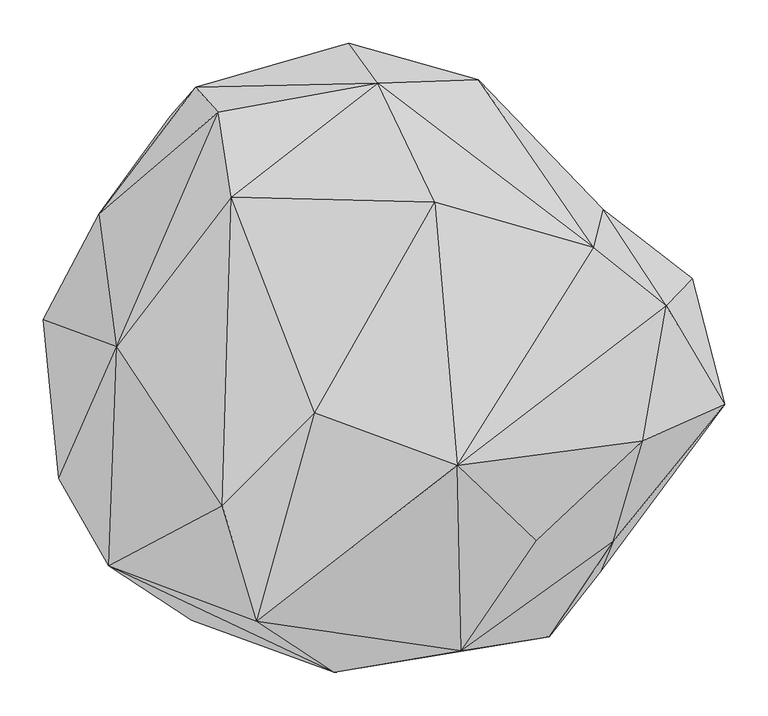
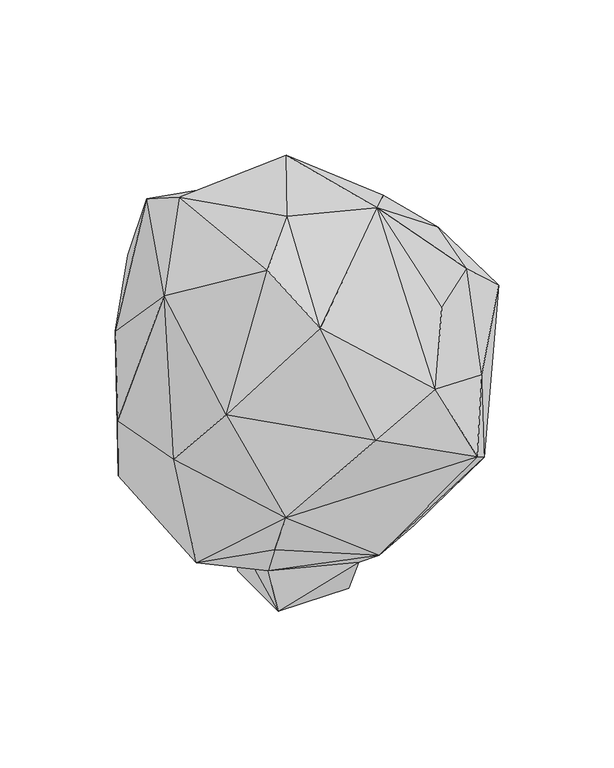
"""IFC4 building model written with IfcOpenShell, lengths in millimetres: geographic element geometry, Enscape AssetDefinition - Bush 135 Rose of Sharon : Enscape AssetDefinition - Bush 135 Rose of Sharon 3."""

import ifcopenshell
import ifcopenshell.guid

model = None  # the IFC model being written
_history = None  # IfcOwnerHistory: only IFC2X3 demands one
_inside = {}  # id of a spatial element -> (the spatial element, [elements in it])
_under = {}  # id of a project, library or spatial element -> (it, [spatial elements below it])
_declared = {}  # id of a project -> (the project, [libraries it declares])
_typed = {}  # id of a type object -> (the type object, [elements of that type])
_made_of = {}  # id of a material, layer set ... -> (it, [elements and type objects made of it])


def new_model(schema):
    """Start an empty IFC model of exactly this schema.

    Asked for "IFC4X3", IfcOpenShell would pick the latest addendum, in which some entities
    have other attributes; the version numbers below select the first issue.
    IFC2X3 requires an IfcOwnerHistory on every rooted entity: one is made here for all.
    """
    global model, _history
    if schema == "IFC4X3":
        model = ifcopenshell.file(schema_version=(4, 3, 0, 0))
    else:
        model = ifcopenshell.file(schema=schema)
    _inside.clear()
    _under.clear()
    _declared.clear()
    _typed.clear()
    _made_of.clear()
    _history = None
    if model.schema == "IFC2X3":
        org = make("IfcOrganization", Name="unknown")
        user = make(
            "IfcPersonAndOrganization",
            ThePerson=make("IfcPerson", FamilyName="unknown"),
            TheOrganization=org,
        )
        app = make(
            "IfcApplication",
            ApplicationDeveloper=org,
            Version="unknown",
            ApplicationFullName="unknown",
            ApplicationIdentifier="unknown",
        )
        _history = make(
            "IfcOwnerHistory",
            OwningUser=user,
            OwningApplication=app,
            ChangeAction="ADDED",
            CreationDate=0,
        )
    return model


def make(cls, **values):
    """One entity of the class cls with the attributes given. An attribute that is None is left unset."""
    return model.create_entity(
        cls, **{name: value for name, value in values.items() if value is not None}
    )


def rooted(cls, **values):
    """An entity with a GlobalId (a new one), such as an element, a storey or a relation."""
    return make(cls, GlobalId=ifcopenshell.guid.new(), OwnerHistory=_history, **values)


def si_unit(unit_type, name, prefix=None):
    """IfcSIUnit, for example si_unit("LENGTHUNIT", "METRE", prefix="MILLI")."""
    return make("IfcSIUnit", UnitType=unit_type, Prefix=prefix, Name=name)


def assignment(units):
    """IfcUnitAssignment: the units of a project."""
    return None if units is None else make("IfcUnitAssignment", Units=units)


def point(xyz):
    """IfcCartesianPoint."""
    return None if xyz is None else make("IfcCartesianPoint", Coordinates=xyz)


def direction(xyz):
    """IfcDirection."""
    return None if xyz is None else make("IfcDirection", DirectionRatios=xyz)


def frame(location, z_axis=None, x_axis=None):
    """IfcAxis2Placement3D, a coordinate frame: its origin and axes. An axis left out is left unset."""
    return make(
        "IfcAxis2Placement3D",
        Location=point(location),
        Axis=direction(z_axis),
        RefDirection=direction(x_axis),
    )


def origin():
    """The frame at (0, 0, 0) with its axes left unset."""
    return frame((0.0, 0.0, 0.0))


def place(relative_to, where):
    """IfcLocalPlacement: puts the frame where relative to a parent placement (None: the world)."""
    return make(
        "IfcLocalPlacement", PlacementRelTo=relative_to, RelativePlacement=where
    )


def context(
    kind, dimensions, precision=None, world=None, true_north=None, identifier=None
):
    """IfcGeometricRepresentationContext, for example the 3D "Model" context."""
    return make(
        "IfcGeometricRepresentationContext",
        ContextIdentifier=identifier,
        ContextType=kind,
        CoordinateSpaceDimension=dimensions,
        Precision=precision,
        WorldCoordinateSystem=world,
        TrueNorth=true_north,
    )


def project(units=None, contexts=None):
    """IfcProject with its units and contexts."""
    return rooted(
        "IfcProject",
        Name="project",
        RepresentationContexts=contexts,
        UnitsInContext=assignment(units),
    )


def spatial(cls, under=None, at=None, **own):
    """A site, building, storey or space (cls), placed at a placement, below another one or the project."""
    s = rooted(cls, ObjectPlacement=at, **own)
    if under is not None:
        _under.setdefault(under.id(), (under, []))[1].append(s)
    return s


def point_list(points):
    """IfcCartesianPointList2D or 3D."""
    cls = (
        "IfcCartesianPointList2D" if len(points[0]) == 2 else "IfcCartesianPointList3D"
    )
    return make(cls, CoordList=points)


def triangles(points, corners, closed=None, point_numbers=None):
    """IfcTriangulatedFaceSet: each triangle names its three corners, points numbered from 1."""
    return make(
        "IfcTriangulatedFaceSet",
        Coordinates=point_list(points),
        Closed=closed,
        CoordIndex=corners,
        PnIndex=point_numbers,
    )


def shape(context_of_items, identifier, shape_type, items):
    """IfcShapeRepresentation: the items that make up one representation, for example the "Body"."""
    return make(
        "IfcShapeRepresentation",
        ContextOfItems=context_of_items,
        RepresentationIdentifier=identifier,
        RepresentationType=shape_type,
        Items=items,
    )


def source(mapping_origin, context_of_items, identifier, shape_type, items):
    """IfcRepresentationMap: a shape defined once, which mapped items show again and again."""
    return make(
        "IfcRepresentationMap",
        MappingOrigin=mapping_origin,
        MappedRepresentation=shape(context_of_items, identifier, shape_type, items),
    )


def transform(
    local_origin,
    x_axis=None,
    y_axis=None,
    z_axis=None,
    scale=None,
    scale2=None,
    scale3=None,
    uniform=True,
):
    """IfcCartesianTransformationOperator3D, or its non-uniform kind. x_axis, y_axis, z_axis: its Axis1, 2, 3."""
    if uniform:
        return make(
            "IfcCartesianTransformationOperator3D",
            Axis1=direction(x_axis),
            Axis2=direction(y_axis),
            LocalOrigin=point(local_origin),
            Scale=scale,
            Axis3=direction(z_axis),
        )
    return make(
        "IfcCartesianTransformationOperator3DnonUniform",
        Axis1=direction(x_axis),
        Axis2=direction(y_axis),
        LocalOrigin=point(local_origin),
        Scale=scale,
        Axis3=direction(z_axis),
        Scale2=scale2,
        Scale3=scale3,
    )


def mapped(mapping_source, mapping_target):
    """IfcMappedItem: shows the shape of a source again, moved by a transform."""
    return make(
        "IfcMappedItem", MappingSource=mapping_source, MappingTarget=mapping_target
    )


def made_of(thing, what):
    """Note that an element or type object is made of a material, layer set ...; save() writes the relation."""
    if what is not None:
        _made_of.setdefault(what.id(), (what, []))[1].append(thing)
    return thing


def element(
    cls,
    number,
    at=None,
    inside=None,
    cuts=None,
    type_object=None,
    material=None,
    context=None,
    identifier="Body",
    shape_type=None,
    held_by="IfcProductDefinitionShape",
    body=None,
    shapes=None,
    **own,
):
    """One element of the class cls, such as IfcWall. Its Tag is "e" and its number.

    at: its placement. inside: the storey or other place that contains it. cuts: it is an
    opening in that element (IfcRelVoidsElement). A single representation is given by context,
    identifier, shape_type and body (its items); several are given by shapes. held_by: the class
    of the entity that holds the representations. save() writes the other relations.
    """
    e = rooted(cls, Tag="e%d" % number, ObjectPlacement=at, **own)
    if body is not None:
        shapes = [shape(context, identifier, shape_type, body)]
    if shapes is not None:
        e.Representation = make(held_by, Representations=shapes)
    if inside is not None:
        _inside.setdefault(inside.id(), (inside, []))[1].append(e)
    if cuts is not None:
        rooted(
            "IfcRelVoidsElement", RelatingBuildingElement=cuts, RelatedOpeningElement=e
        )
    if type_object is not None:
        _typed.setdefault(type_object.id(), (type_object, []))[1].append(e)
    return made_of(e, material)


def aggregate(whole, parts):
    """IfcRelAggregates: a whole, such as a stair, and the parts it consists of."""
    return rooted("IfcRelAggregates", RelatingObject=whole, RelatedObjects=parts)


def save(model, path):
    """Write the relations noted so far, then the file.

    IfcRelAggregates (storeys below a building ...), IfcRelContainedInSpatialStructure (elements
    in a storey), IfcRelDefinesByType, IfcRelAssociatesMaterial and IfcRelDeclares: one each for
    every whole, place, type object, material and project.
    """
    for whole, parts in _under.values():
        aggregate(whole, parts)
    for where, things in _inside.values():
        rooted(
            "IfcRelContainedInSpatialStructure",
            RelatedElements=things,
            RelatingStructure=where,
        )
    for kind, things in _typed.values():
        rooted("IfcRelDefinesByType", RelatedObjects=things, RelatingType=kind)
    for what, things in _made_of.values():
        rooted("IfcRelAssociatesMaterial", RelatedObjects=things, RelatingMaterial=what)
    for by, libraries in _declared.values():
        rooted("IfcRelDeclares", RelatingContext=by, RelatedDefinitions=libraries)
    model.write(path)


def geographic_element_19c87b53(model_context):
    return source(origin(), model_context, "Body", "Tessellation", [
        triangles([(91.8636878, -73.0606477, -17.7566333), (98.2740978, -100.0748963, 56.2162997), (-63.7890615, -73.0606477, -17.7566333), (-63.7890615, 82.5920971, -17.7566333), (-290.7561261, 146.6717341, 244.947912), (-57.0887619, 116.2312048, 59.5105663), (13.5975848, 216.0777084, 120.6528917), (-180.7530295, 249.0678459, 289.0098119), (-91.5353739, -83.5944796, 93.2376864), (-178.7789676, -258.1410566, 278.3698), (-224.5473767, -37.7234128, 130.8535227), (34.4235574, -289.8606139, 210.4293613), (-339.0483092, -150.2125881, 480.691335), (-185.8110784, -313.6239163, 389.8174487), (-272.0320147, 2.046693, 747.6443356), (-292.6128078, 155.3600482, 578.3213496), (-356.7294611, 33.2367544, 465.600323), (-281.2791791, -250.6618801, 625.0320522), (-150.9767766, -181.5206971, 875.5242479), (-140.2655299, 173.9507376, 827.2250885), (28.4720811, 305.5859259, 713.4135761), (-181.0792269, 300.7898342, 628.6232574), (-155.2489903, 271.8154763, 769.9713884), (-4.8897099, 351.3501019, 529.3320434), (277.2325875, 116.2402885, 720.0258905), (119.6358389, -134.8477283, 898.3844078), (93.837023, 168.5769377, 846.081205), (-44.4830906, -74.561092, 899.9999342), (211.0957632, -222.0089052, 685.6965906), (-110.8294633, -314.4949751, 806.9564856), (124.4396336, -348.581848, 602.6344005), (143.9789025, 309.4033891, 573.0138974), (427.8272653, -64.9297622, 567.3523607), (390.8247273, 80.5824178, 530.9331084), (360.7027287, 49.2184211, 656.6377539), (333.462858, -106.5845007, 664.1937607), (-21.7061219, -373.1959705, 549.9282426), (226.0548065, -332.2613688, 399.1379554), (299.7119748, -222.5383969, 499.1122673), (293.6927383, 0.0733456, 253.0026529), (287.911714, 159.6532273, 584.7750981), (205.6933313, 182.5349702, 194.9995437), (285.4011841, -257.1246942, 331.2806511), (344.2537691, 11.1094214, 167.2951301), (194.400198, -147.5602791, 138.9383126), (82.3007995, 263.5232499, 193.9594364), (91.8636878, 82.5920971, -17.7566333), (-210.4761789, 267.5551622, 520.5850845)], [[45, 12, 2], [22, 48, 16], [5, 16, 48], [48, 8, 5], [22, 24, 48], [24, 8, 48], [8, 24, 7], [7, 24, 46], [46, 24, 32], [47, 7, 46], [42, 32, 41], [42, 46, 32], [46, 42, 47], [44, 45, 2], [47, 42, 44], [44, 2, 47], [38, 12, 43], [45, 43, 12], [43, 45, 44], [44, 42, 40], [44, 40, 43], [40, 42, 41], [40, 41, 34], [33, 40, 34], [40, 33, 43], [39, 38, 43], [39, 43, 33], [38, 39, 31], [31, 30, 37], [38, 31, 37], [39, 29, 31], [39, 33, 36], [36, 29, 39], [36, 33, 35], [34, 41, 35], [33, 34, 35], [35, 41, 25], [32, 25, 41], [29, 26, 31], [26, 35, 25], [26, 36, 35], [30, 31, 26], [29, 36, 26], [26, 28, 30], [27, 28, 26], [25, 27, 26], [25, 21, 27], [21, 32, 24], [21, 24, 22], [32, 21, 25], [22, 16, 23], [22, 23, 21], [20, 21, 23], [27, 21, 20], [27, 20, 28], [30, 28, 19], [28, 20, 19], [30, 19, 18], [37, 30, 18], [15, 20, 23], [23, 16, 15], [15, 19, 20], [18, 19, 15], [17, 16, 5], [15, 16, 17], [18, 15, 13], [15, 17, 13], [13, 14, 18], [38, 37, 14], [37, 18, 14], [12, 38, 14], [13, 11, 14], [17, 11, 13], [5, 11, 17], [14, 10, 12], [14, 11, 10], [9, 10, 11], [2, 12, 9], [10, 9, 12], [9, 11, 6], [5, 8, 6], [6, 8, 7], [47, 6, 7], [5, 6, 11], [6, 47, 4], [3, 2, 9], [9, 6, 3], [4, 3, 6], [3, 4, 47], [1, 3, 47], [47, 2, 1], [1, 2, 3]]),
    ])


if __name__ == "__main__":
    model = new_model("IFC4")
    model_context = context("Model", 3, world=origin())
    ifc_project = project(units=[si_unit("LENGTHUNIT", "METRE", prefix="MILLI")], contexts=[model_context])
    site = spatial("IfcSite", under=ifc_project)
    building = spatial("IfcBuilding", under=site)
    placement = place(None, origin())
    geographic_element_shape = geographic_element_19c87b53(model_context)
    element("IfcGeographicElement", 1, ObjectType="Enscape AssetDefinition - Bush 135 Rose of Sharon : Enscape AssetDefinition - Bush 135 Rose of Sharon 3", at=placement, inside=building, context=model_context, shape_type="MappedRepresentation", body=[
        mapped(geographic_element_shape, transform((0.0, 0.0, 0.0), x_axis=(1.0, 0.0, 0.0), y_axis=(0.0, 1.0, 0.0), z_axis=(0.0, 0.0, 1.0))),
    ])
    save(model, "model.ifc")
